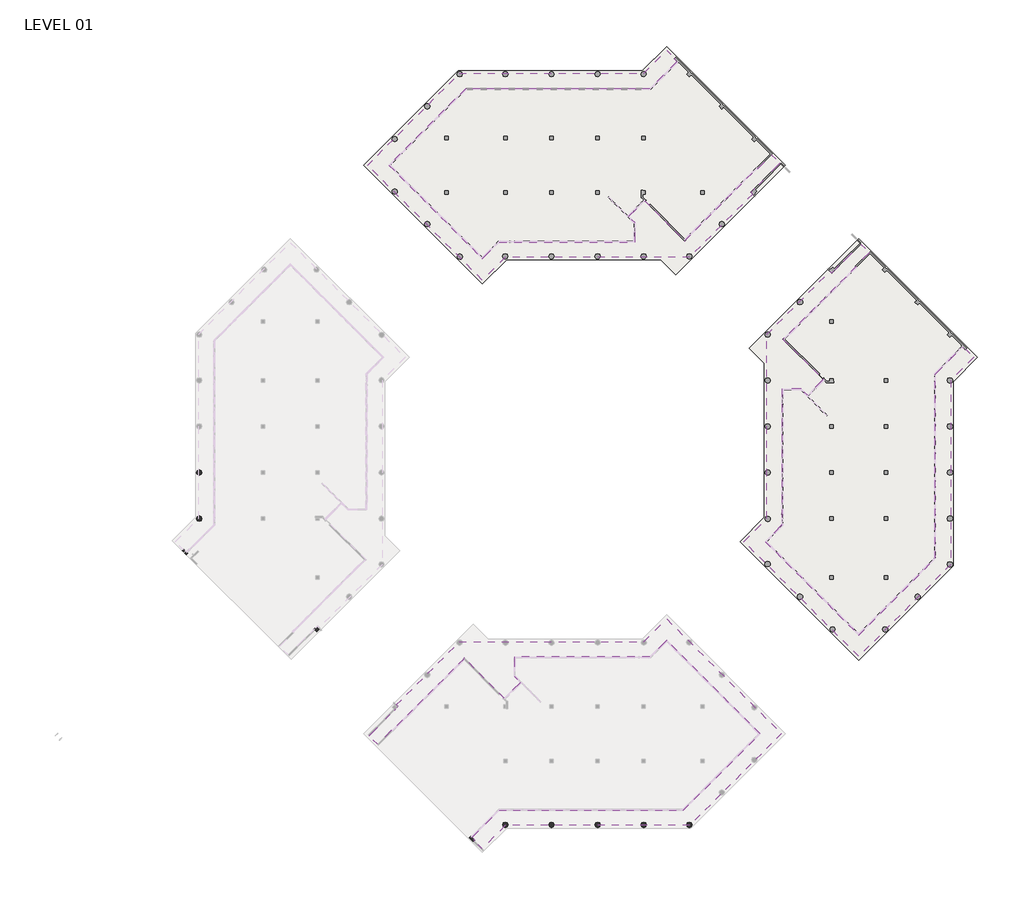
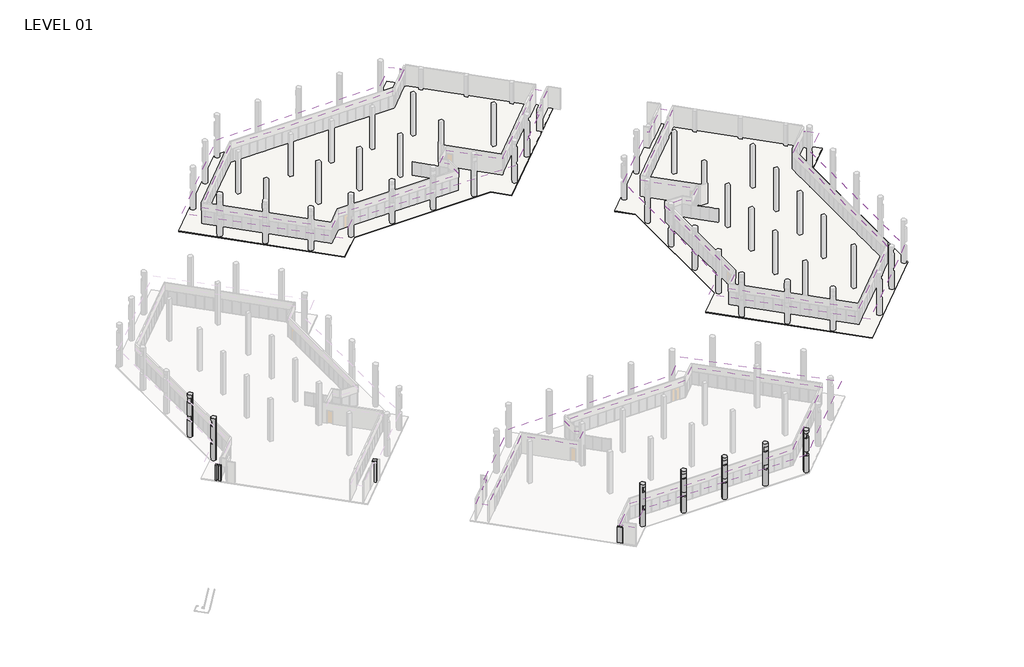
# One storey, part 16 of 24: 10 columns, 3 coverings, 2 slabs.
"""IFC4 building model written with IfcOpenShell, lengths in millimetres."""

from ifc_helpers import new_model, si_unit, frame, origin, origin_with_axes, place, context, project, spatial, polyline, circle_curve, outline, extrude, faceted_brep, element, save
from ifc_brep_helpers import plane_surface, cylinder_surface, advanced_brep

model = new_model("IFC4")

# Units and contexts
model_context = context("Model", 3, world=origin())
ifc_project = project(units=[si_unit("LENGTHUNIT", "METRE", prefix="MILLI")], contexts=[model_context])

# Site, building, storey
site = spatial("IfcSite", under=ifc_project)
building = spatial("IfcBuilding", under=site)
storey = spatial("IfcBuildingStorey", under=building, Name="LEVEL 01", Elevation=0.0)

# Columns
placement = place(None, origin())
element("IfcColumn", 1, ObjectType="Rectangular Column : 1'2\"x3'-0\"", at=placement, inside=storey, context=model_context, shape_type="SweptSolid", body=[
    extrude(outline(polyline([(12692.6625632, -6464.9955932), (13339.2410039, -7111.5740339), (13087.7938325, -7363.0212053), (12441.2153918, -6716.4427645), (12692.6625632, -6464.9955932)])), origin_with_axes(), (0.0, 0.0, 1.0), 3048.0),
])
element("IfcColumn", 2, ObjectType="Rectangular Column : 1'2\"x3'-0\"", at=placement, inside=storey, context=model_context, shape_type="Brep", body=[
    faceted_brep([(-35055.0387938, 40779.8114211, 0.0), (-34803.5916224, 41031.2585924, 0.0), (-34606.3464265, 40834.0133965, 0.0), (-34857.7935979, 40582.5662251, 0.0), (-35055.0387938, 40779.8114211, 3048.0), (-34803.5916224, 41031.2585924, 3048.0), (-34606.3464265, 40834.0133965, 3048.0), (-34857.7935979, 40582.5662251, 3048.0)], [[[0, 1, 2, 3]], [[1, 0, 4, 5]], [[3, 2, 6, 7]], [[1, 5, 6, 2]], [[4, 0, 3, 7]], [[5, 4, 7, 6]]]),
    faceted_brep([(-34157.0131817, 40384.6801517, 3048.0), (-34157.0131817, 40384.6801517, 0.0), (-34390.8202796, 40618.4872496, 0.0), (-34390.8202796, 40618.4872496, 3048.0), (-34362.0124677, 40589.6794378, 3048.0), (-34218.3283698, 40445.9953398, 3048.0), (-34408.4603531, 40133.2329803, 0.0), (-34408.4603531, 40133.2329803, 3048.0), (-34642.2674509, 40367.0400782, 3048.0), (-34642.2674509, 40367.0400782, 0.0)], [[[0, 1, 2, 3, 4, 5]], [[6, 7, 8, 9]], [[6, 1, 0, 7]], [[7, 0, 5, 4, 3, 8]], [[2, 9, 8, 3]], [[1, 6, 9, 2]]]),
])
element("IfcColumn", 3, ObjectType="Rectangular Column : 24\" x 24\"", at=placement, inside=storey, context=model_context, shape_type="SweptSolid", body=[
    extrude(outline(polyline([(-12428.6744716, 27763.8596375), (-12859.7267654, 27332.8073437), (-13290.7790592, 27763.8596375), (-12859.7267654, 28194.9119313), (-12428.6744716, 27763.8596375)])), origin_with_axes(), (0.0, 0.0, 1.0), 4140.2),
])
element("IfcColumn", 4, ObjectType="Round Column : 36\" Diameter", at=placement, inside=storey, context=model_context, shape_type="AdvancedBrep", body=[
    advanced_brep(
    [(49291.0659021, -4590.3671279, 0.0), (48376.6659021, -4590.3671279, 0.0), (48833.8659021, -4133.1671279, 0.0), (49291.0659021, -4590.3671279, 3225.8), (49157.1551224, -4913.6563482, 3225.8), (48833.8659021, -5047.5671279, 3225.8), (48636.8289755, -5002.9302013, 3225.8), (48402.8136083, -4742.7671279, 3225.8), (48402.8136083, -4742.7671279, 4140.2), (48636.8289755, -5002.9302013, 4140.2), (48833.8659021, -5047.5671279, 4140.2), (49157.1551224, -4913.6563482, 4140.2), (49291.0659021, -4590.3671279, 4140.2), (49291.0659021, -4590.3671279, 6731.0), (49157.1551224, -4913.6563482, 6731.0), (48833.8659021, -5047.5671279, 6731.0), (48636.8289755, -5002.9302013, 6731.0), (48402.8136083, -4742.7671279, 6731.0), (48402.8136083, -4742.7671279, 7721.6), (48636.8289755, -5002.9302013, 7721.6), (48833.8659021, -5047.5671279, 7721.6), (49157.1551224, -4913.6563482, 7721.6), (49291.0659021, -4590.3671279, 7721.6), (49291.0659021, -4590.3671279, 8280.4), (48376.6659021, -4590.3671279, 8280.4), (48833.8659021, -4133.1671279, 8280.4), (49246.4289755, -4393.3302013, 7721.6), (49246.4289755, -4393.3302013, 6731.0), (49246.4289755, -4393.3302013, 4140.2), (49246.4289755, -4393.3302013, 3225.8), (48896.992049, -4742.7671279, 4140.2), (48896.992049, -4742.7671279, 3225.8), (48896.992049, -4742.7671279, 7721.6), (48896.992049, -4742.7671279, 6731.0)],
    [
        (0, 1, circle_curve(frame((48833.8659021, -4590.3671279, 0.0), z_axis=(0.0, 0.0, -1.0), x_axis=(1.0, 0.0, 0.0)), 457.2)),
        (1, 2, circle_curve(frame((48833.8659021, -4590.3671279, 0.0), z_axis=(0.0, 0.0, -1.0), x_axis=(1.0, 0.0, 0.0)), 457.2)),
        (2, 0, circle_curve(frame((48833.8659021, -4590.3671279, 0.0), z_axis=(0.0, 0.0, -1.0), x_axis=(1.0, 0.0, 0.0)), 457.2)),
        (0, 3),
        (3, 4, circle_curve(frame((48833.8659021, -4590.3671279, 3225.8), z_axis=(0.0, 0.0, -1.0), x_axis=(1.0, 0.0, 0.0)), 457.2)),
        (4, 5, circle_curve(frame((48833.8659021, -4590.3671279, 3225.8), z_axis=(0.0, 0.0, -1.0), x_axis=(1.0, 0.0, 0.0)), 457.2)),
        (5, 6, circle_curve(frame((48833.8659021, -4590.3671279, 3225.8), z_axis=(0.0, 0.0, -1.0), x_axis=(1.0, 0.0, 0.0)), 457.2)),
        (6, 7, circle_curve(frame((48833.8659021, -4590.3671279, 3225.8), z_axis=(0.0, 0.0, -1.0), x_axis=(1.0, 0.0, 0.0)), 457.2)),
        (7, 8),
        (8, 9, circle_curve(frame((48833.8659021, -4590.3671279, 4140.2), z_axis=(0.0, 0.0, 1.0), x_axis=(1.0, 0.0, 0.0)), 457.2)),
        (9, 10, circle_curve(frame((48833.8659021, -4590.3671279, 4140.2), z_axis=(0.0, 0.0, 1.0), x_axis=(1.0, 0.0, 0.0)), 457.2)),
        (10, 11, circle_curve(frame((48833.8659021, -4590.3671279, 4140.2), z_axis=(0.0, 0.0, 1.0), x_axis=(1.0, 0.0, 0.0)), 457.2)),
        (11, 12, circle_curve(frame((48833.8659021, -4590.3671279, 4140.2), z_axis=(0.0, 0.0, 1.0), x_axis=(1.0, 0.0, 0.0)), 457.2)),
        (12, 13),
        (13, 14, circle_curve(frame((48833.8659021, -4590.3671279, 6731.0), z_axis=(0.0, 0.0, -1.0), x_axis=(1.0, 0.0, 0.0)), 457.2)),
        (14, 15, circle_curve(frame((48833.8659021, -4590.3671279, 6731.0), z_axis=(0.0, 0.0, -1.0), x_axis=(1.0, 0.0, 0.0)), 457.2)),
        (15, 16, circle_curve(frame((48833.8659021, -4590.3671279, 6731.0), z_axis=(0.0, 0.0, -1.0), x_axis=(1.0, 0.0, 0.0)), 457.2)),
        (16, 17, circle_curve(frame((48833.8659021, -4590.3671279, 6731.0), z_axis=(0.0, 0.0, -1.0), x_axis=(1.0, 0.0, 0.0)), 457.2)),
        (17, 18),
        (18, 19, circle_curve(frame((48833.8659021, -4590.3671279, 7721.6), z_axis=(0.0, 0.0, 1.0), x_axis=(1.0, 0.0, 0.0)), 457.2)),
        (19, 20, circle_curve(frame((48833.8659021, -4590.3671279, 7721.6), z_axis=(0.0, 0.0, 1.0), x_axis=(1.0, 0.0, 0.0)), 457.2)),
        (20, 21, circle_curve(frame((48833.8659021, -4590.3671279, 7721.6), z_axis=(0.0, 0.0, 1.0), x_axis=(1.0, 0.0, 0.0)), 457.2)),
        (21, 22, circle_curve(frame((48833.8659021, -4590.3671279, 7721.6), z_axis=(0.0, 0.0, 1.0), x_axis=(1.0, 0.0, 0.0)), 457.2)),
        (22, 23),
        (23, 24, circle_curve(frame((48833.8659021, -4590.3671279, 8280.4), z_axis=(0.0, 0.0, -1.0), x_axis=(1.0, 0.0, 0.0)), 457.2)),
        (24, 1),
        (24, 25, circle_curve(frame((48833.8659021, -4590.3671279, 8280.4), z_axis=(0.0, 0.0, -1.0), x_axis=(1.0, 0.0, 0.0)), 457.2)),
        (25, 2),
        (25, 23, circle_curve(frame((48833.8659021, -4590.3671279, 8280.4), z_axis=(0.0, 0.0, -1.0), x_axis=(1.0, 0.0, 0.0)), 457.2)),
        (22, 26, circle_curve(frame((48833.8659021, -4590.3671279, 7721.6), z_axis=(0.0, 0.0, 1.0), x_axis=(1.0, 0.0, 0.0)), 457.2)),
        (26, 27),
        (27, 13, circle_curve(frame((48833.8659021, -4590.3671279, 6731.0), z_axis=(0.0, 0.0, -1.0), x_axis=(1.0, 0.0, 0.0)), 457.2)),
        (12, 28, circle_curve(frame((48833.8659021, -4590.3671279, 4140.2), z_axis=(0.0, 0.0, 1.0), x_axis=(1.0, 0.0, 0.0)), 457.2)),
        (28, 29),
        (29, 3, circle_curve(frame((48833.8659021, -4590.3671279, 3225.8), z_axis=(0.0, 0.0, -1.0), x_axis=(1.0, 0.0, 0.0)), 457.2)),
        (28, 30),
        (30, 31),
        (31, 29),
        (31, 6),
        (9, 30),
        (30, 8),
        (7, 31),
        (26, 32),
        (32, 33),
        (33, 27),
        (33, 16),
        (19, 32),
        (32, 18),
        (17, 33),
    ],
    [
        plane_surface(frame((49291.0659021, -4590.3671279, 0.0), z_axis=(0.0, 0.0, -1.0), x_axis=(0.0, -1.0, 0.0))),
        cylinder_surface(frame((48833.8659021, -4590.3671279, 0.0), z_axis=(0.0, 0.0, 1.0), x_axis=(1.0, 0.0, 0.0)), 457.2),
        plane_surface(frame((49291.0659021, -4590.3671279, 8280.4), z_axis=(0.0, 0.0, 1.0), x_axis=(0.0, 1.0, 0.0))),
        plane_surface(frame((64421.1852448, 10781.426068, 3225.8), z_axis=(0.707106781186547, -0.7071067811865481, 0.0), x_axis=(-0.7071067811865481, -0.707106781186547, 0.0))),
        plane_surface(frame((64241.5801224, 10601.8209456, 3225.8), z_axis=(0.0, 0.0, 1.0000000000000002), x_axis=(0.7071067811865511, -0.707106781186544, 0.0))),
        plane_surface(frame((48852.3551224, -4787.4040544, 4140.2), z_axis=(0.0, 0.0, -1.0000000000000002), x_axis=(0.7071067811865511, -0.707106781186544, 0.0))),
        plane_surface(frame((49023.2443428, -4742.7671279, 3225.8), z_axis=(0.0, -1.0, 0.0), x_axis=(-1.0, 0.0, 0.0))),
        plane_surface(frame((48960.1181959, -4742.7671279, 3225.8), z_axis=(0.0, 0.0, 1.0), x_axis=(0.0, -1.0, 0.0))),
        plane_surface(frame((18480.1181959, -4742.7671279, 4140.2), z_axis=(0.0, 0.0, -1.0), x_axis=(0.0, -1.0, 0.0))),
        plane_surface(frame((64421.1852448, 10781.426068, 6731.0), z_axis=(0.7071067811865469, -0.7071067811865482, 0.0), x_axis=(-0.7071067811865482, -0.7071067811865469, 0.0))),
        plane_surface(frame((64241.5801224, 10601.8209456, 6731.0), z_axis=(0.0, 0.0, 1.0000000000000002), x_axis=(0.7071067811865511, -0.707106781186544, 0.0))),
        plane_surface(frame((48852.3551224, -4787.4040544, 7721.6), z_axis=(0.0, 0.0, -1.0000000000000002), x_axis=(0.7071067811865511, -0.707106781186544, 0.0))),
        plane_surface(frame((49023.2443428, -4742.7671279, 6731.0), z_axis=(0.0, -1.0, 0.0), x_axis=(-1.0, 0.0, 0.0))),
        plane_surface(frame((48960.1181959, -4742.7671279, 6731.0), z_axis=(0.0, 0.0, 1.0), x_axis=(0.0, -1.0, 0.0))),
        plane_surface(frame((18480.1181959, -4742.7671279, 7721.6), z_axis=(0.0, 0.0, -1.0), x_axis=(0.0, -1.0, 0.0))),
    ],
    [
        (0, [[1, 2, 3]]),
        (1, [[-1, 4, 5, 6, 7, 8, 9, 10, 11, 12, 13, 14, 15, 16, 17, 18, 19, 20, 21, 22, 23, 24, 25, 26]]),
        (1, [[-2, -26, 27, 28]]),
        (1, [[-3, -28, 29, -24, 30, 31, 32, -14, 33, 34, 35, -4]]),
        (2, [[-25, -29, -27]]),
        (3, [[-34, 36, 37, 38]]),
        (4, [[-5, -35, -38, 39, -7, -6]]),
        (5, [[-13, -12, -11, 40, -36, -33]]),
        (6, [[41, -9, 42, -37]]),
        (7, [[-42, -8, -39]]),
        (8, [[-41, -40, -10]]),
        (9, [[-31, 43, 44, 45]]),
        (10, [[-15, -32, -45, 46, -17, -16]]),
        (11, [[-23, -22, -21, 47, -43, -30]]),
        (12, [[48, -19, 49, -44]]),
        (13, [[-49, -18, -46]]),
        (14, [[-48, -47, -20]]),
    ],
),
])
element("IfcColumn", 5, ObjectType="Round Column : 36\" Diameter", at=placement, inside=storey, context=model_context, shape_type="AdvancedBrep", body=[
    advanced_brep(
    [(41713.15, -4590.3671279, 0.0), (40798.75, -4590.3671279, 0.0), (41255.95, -4133.1671279, 0.0), (41713.15, -4590.3671279, 8280.4), (40798.75, -4590.3671279, 8280.4), (41687.0022938, -4742.7671279, 4140.2), (41687.0022938, -4742.7671279, 3225.8), (41255.95, -5047.5671279, 3225.8), (40824.8977062, -4742.7671279, 3225.8), (40824.8977062, -4742.7671279, 4140.2), (41255.95, -5047.5671279, 4140.2), (41687.0022938, -4742.7671279, 7721.6), (41687.0022938, -4742.7671279, 6731.0), (41255.95, -5047.5671279, 6731.0), (40824.8977062, -4742.7671279, 6731.0), (40824.8977062, -4742.7671279, 7721.6), (41255.95, -5047.5671279, 7721.6), (41255.95, -4133.1671279, 8280.4)],
    [
        (0, 1, circle_curve(frame((41255.95, -4590.3671279, 0.0), z_axis=(0.0, 0.0, -1.0), x_axis=(1.0, 0.0, 0.0)), 457.2)),
        (1, 2, circle_curve(frame((41255.95, -4590.3671279, 0.0), z_axis=(0.0, 0.0, -1.0), x_axis=(1.0, 0.0, 0.0)), 457.2)),
        (2, 0, circle_curve(frame((41255.95, -4590.3671279, 0.0), z_axis=(0.0, 0.0, -1.0), x_axis=(1.0, 0.0, 0.0)), 457.2)),
        (0, 3),
        (3, 4, circle_curve(frame((41255.95, -4590.3671279, 8280.4), z_axis=(0.0, 0.0, -1.0), x_axis=(1.0, 0.0, 0.0)), 457.2)),
        (4, 1),
        (5, 6),
        (6, 7, circle_curve(frame((41255.95, -4590.3671279, 3225.8), z_axis=(0.0, 0.0, -1.0), x_axis=(1.0, 0.0, 0.0)), 457.2)),
        (7, 8, circle_curve(frame((41255.95, -4590.3671279, 3225.8), z_axis=(0.0, 0.0, -1.0), x_axis=(1.0, 0.0, 0.0)), 457.2)),
        (8, 9),
        (9, 10, circle_curve(frame((41255.95, -4590.3671279, 4140.2), z_axis=(0.0, 0.0, 1.0), x_axis=(1.0, 0.0, 0.0)), 457.2)),
        (10, 5, circle_curve(frame((41255.95, -4590.3671279, 4140.2), z_axis=(0.0, 0.0, 1.0), x_axis=(1.0, 0.0, 0.0)), 457.2)),
        (11, 12),
        (12, 13, circle_curve(frame((41255.95, -4590.3671279, 6731.0), z_axis=(0.0, 0.0, -1.0), x_axis=(1.0, 0.0, 0.0)), 457.2)),
        (13, 14, circle_curve(frame((41255.95, -4590.3671279, 6731.0), z_axis=(0.0, 0.0, -1.0), x_axis=(1.0, 0.0, 0.0)), 457.2)),
        (14, 15),
        (15, 16, circle_curve(frame((41255.95, -4590.3671279, 7721.6), z_axis=(0.0, 0.0, 1.0), x_axis=(1.0, 0.0, 0.0)), 457.2)),
        (16, 11, circle_curve(frame((41255.95, -4590.3671279, 7721.6), z_axis=(0.0, 0.0, 1.0), x_axis=(1.0, 0.0, 0.0)), 457.2)),
        (4, 17, circle_curve(frame((41255.95, -4590.3671279, 8280.4), z_axis=(0.0, 0.0, -1.0), x_axis=(1.0, 0.0, 0.0)), 457.2)),
        (17, 2),
        (17, 3, circle_curve(frame((41255.95, -4590.3671279, 8280.4), z_axis=(0.0, 0.0, -1.0), x_axis=(1.0, 0.0, 0.0)), 457.2)),
        (5, 9),
        (8, 6),
        (11, 15),
        (14, 12),
    ],
    [
        plane_surface(frame((41713.15, -4590.3671279, 0.0), z_axis=(0.0, 0.0, -1.0), x_axis=(0.0, -1.0, 0.0))),
        cylinder_surface(frame((41255.95, -4590.3671279, 0.0), z_axis=(0.0, 0.0, 1.0), x_axis=(1.0, 0.0, 0.0)), 457.2),
        plane_surface(frame((41713.15, -4590.3671279, 8280.4), z_axis=(0.0, 0.0, 1.0), x_axis=(0.0, 1.0, 0.0))),
        plane_surface(frame((49023.2443428, -4742.7671279, 3225.8), z_axis=(0.0, -1.0, 0.0), x_axis=(-1.0, 0.0, 0.0))),
        plane_surface(frame((48960.1181959, -4742.7671279, 3225.8), z_axis=(0.0, 0.0, 1.0), x_axis=(0.0, -1.0, 0.0))),
        plane_surface(frame((18480.1181959, -4742.7671279, 4140.2), z_axis=(0.0, 0.0, -1.0), x_axis=(0.0, -1.0, 0.0))),
        plane_surface(frame((49023.2443428, -4742.7671279, 6731.0), z_axis=(0.0, -1.0, 0.0), x_axis=(-1.0, 0.0, 0.0))),
        plane_surface(frame((48960.1181959, -4742.7671279, 6731.0), z_axis=(0.0, 0.0, 1.0), x_axis=(0.0, -1.0, 0.0))),
        plane_surface(frame((18480.1181959, -4742.7671279, 7721.6), z_axis=(0.0, 0.0, -1.0), x_axis=(0.0, -1.0, 0.0))),
    ],
    [
        (0, [[1, 2, 3]]),
        (1, [[-1, 4, 5, 6], [7, 8, 9, 10, 11, 12], [13, 14, 15, 16, 17, 18]]),
        (1, [[-2, -6, 19, 20]]),
        (1, [[-3, -20, 21, -4]]),
        (2, [[-5, -21, -19]]),
        (3, [[22, -10, 23, -7]]),
        (4, [[-23, -9, -8]]),
        (5, [[-22, -12, -11]]),
        (6, [[24, -16, 25, -13]]),
        (7, [[-25, -15, -14]]),
        (8, [[-24, -18, -17]]),
    ],
),
])
element("IfcColumn", 6, ObjectType="Round Column : 36\" Diameter", at=placement, inside=storey, context=model_context, shape_type="AdvancedBrep", body=[
    advanced_brep(
    [(34093.15, -4590.3671279, 0.0), (33178.75, -4590.3671279, 0.0), (33635.95, -4133.1671279, 0.0), (34093.15, -4590.3671279, 8280.4), (33178.75, -4590.3671279, 8280.4), (34067.0022938, -4742.7671279, 4140.2), (34067.0022938, -4742.7671279, 3225.8), (33635.95, -5047.5671279, 3225.8), (33204.8977062, -4742.7671279, 3225.8), (33204.8977062, -4742.7671279, 4140.2), (33635.95, -5047.5671279, 4140.2), (34067.0022938, -4742.7671279, 7721.6), (34067.0022938, -4742.7671279, 6731.0), (33635.95, -5047.5671279, 6731.0), (33204.8977062, -4742.7671279, 6731.0), (33204.8977062, -4742.7671279, 7721.6), (33635.95, -5047.5671279, 7721.6), (33635.95, -4133.1671279, 8280.4)],
    [
        (0, 1, circle_curve(frame((33635.95, -4590.3671279, 0.0), z_axis=(0.0, 0.0, -1.0), x_axis=(1.0, 0.0, 0.0)), 457.2)),
        (1, 2, circle_curve(frame((33635.95, -4590.3671279, 0.0), z_axis=(0.0, 0.0, -1.0), x_axis=(1.0, 0.0, 0.0)), 457.2)),
        (2, 0, circle_curve(frame((33635.95, -4590.3671279, 0.0), z_axis=(0.0, 0.0, -1.0), x_axis=(1.0, 0.0, 0.0)), 457.2)),
        (0, 3),
        (3, 4, circle_curve(frame((33635.95, -4590.3671279, 8280.4), z_axis=(0.0, 0.0, -1.0), x_axis=(1.0, 0.0, 0.0)), 457.2)),
        (4, 1),
        (5, 6),
        (6, 7, circle_curve(frame((33635.95, -4590.3671279, 3225.8), z_axis=(0.0, 0.0, -1.0), x_axis=(1.0, 0.0, 0.0)), 457.2)),
        (7, 8, circle_curve(frame((33635.95, -4590.3671279, 3225.8), z_axis=(0.0, 0.0, -1.0), x_axis=(1.0, 0.0, 0.0)), 457.2)),
        (8, 9),
        (9, 10, circle_curve(frame((33635.95, -4590.3671279, 4140.2), z_axis=(0.0, 0.0, 1.0), x_axis=(1.0, 0.0, 0.0)), 457.2)),
        (10, 5, circle_curve(frame((33635.95, -4590.3671279, 4140.2), z_axis=(0.0, 0.0, 1.0), x_axis=(1.0, 0.0, 0.0)), 457.2)),
        (11, 12),
        (12, 13, circle_curve(frame((33635.95, -4590.3671279, 6731.0), z_axis=(0.0, 0.0, -1.0), x_axis=(1.0, 0.0, 0.0)), 457.2)),
        (13, 14, circle_curve(frame((33635.95, -4590.3671279, 6731.0), z_axis=(0.0, 0.0, -1.0), x_axis=(1.0, 0.0, 0.0)), 457.2)),
        (14, 15),
        (15, 16, circle_curve(frame((33635.95, -4590.3671279, 7721.6), z_axis=(0.0, 0.0, 1.0), x_axis=(1.0, 0.0, 0.0)), 457.2)),
        (16, 11, circle_curve(frame((33635.95, -4590.3671279, 7721.6), z_axis=(0.0, 0.0, 1.0), x_axis=(1.0, 0.0, 0.0)), 457.2)),
        (4, 17, circle_curve(frame((33635.95, -4590.3671279, 8280.4), z_axis=(0.0, 0.0, -1.0), x_axis=(1.0, 0.0, 0.0)), 457.2)),
        (17, 2),
        (17, 3, circle_curve(frame((33635.95, -4590.3671279, 8280.4), z_axis=(0.0, 0.0, -1.0), x_axis=(1.0, 0.0, 0.0)), 457.2)),
        (5, 9),
        (8, 6),
        (11, 15),
        (14, 12),
    ],
    [
        plane_surface(frame((34093.15, -4590.3671279, 0.0), z_axis=(0.0, 0.0, -1.0), x_axis=(0.0, -1.0, 0.0))),
        cylinder_surface(frame((33635.95, -4590.3671279, 0.0), z_axis=(0.0, 0.0, 1.0), x_axis=(1.0, 0.0, 0.0)), 457.2),
        plane_surface(frame((34093.15, -4590.3671279, 8280.4), z_axis=(0.0, 0.0, 1.0), x_axis=(0.0, 1.0, 0.0))),
        plane_surface(frame((49023.2443428, -4742.7671279, 3225.8), z_axis=(0.0, -1.0, 0.0), x_axis=(-1.0, 0.0, 0.0))),
        plane_surface(frame((48960.1181959, -4742.7671279, 3225.8), z_axis=(0.0, 0.0, 1.0), x_axis=(0.0, -1.0, 0.0))),
        plane_surface(frame((18480.1181959, -4742.7671279, 4140.2), z_axis=(0.0, 0.0, -1.0), x_axis=(0.0, -1.0, 0.0))),
        plane_surface(frame((49023.2443428, -4742.7671279, 6731.0), z_axis=(0.0, -1.0, 0.0), x_axis=(-1.0, 0.0, 0.0))),
        plane_surface(frame((48960.1181959, -4742.7671279, 6731.0), z_axis=(0.0, 0.0, 1.0), x_axis=(0.0, -1.0, 0.0))),
        plane_surface(frame((18480.1181959, -4742.7671279, 7721.6), z_axis=(0.0, 0.0, -1.0), x_axis=(0.0, -1.0, 0.0))),
    ],
    [
        (0, [[1, 2, 3]]),
        (1, [[-1, 4, 5, 6], [7, 8, 9, 10, 11, 12], [13, 14, 15, 16, 17, 18]]),
        (1, [[-2, -6, 19, 20]]),
        (1, [[-3, -20, 21, -4]]),
        (2, [[-5, -21, -19]]),
        (3, [[22, -10, 23, -7]]),
        (4, [[-23, -9, -8]]),
        (5, [[-22, -12, -11]]),
        (6, [[24, -16, 25, -13]]),
        (7, [[-25, -15, -14]]),
        (8, [[-24, -18, -17]]),
    ],
),
])
element("IfcColumn", 7, ObjectType="Round Column : 36\" Diameter", at=placement, inside=storey, context=model_context, shape_type="AdvancedBrep", body=[
    advanced_brep(
    [(18853.15, -4590.3671279, 0.0), (17938.75, -4590.3671279, 0.0), (18395.95, -4133.1671279, 0.0), (18853.15, -4590.3671279, 8280.4), (17938.75, -4590.3671279, 8280.4), (18827.0022938, -4742.7671279, 4140.2), (18827.0022938, -4742.7671279, 3225.8), (18395.95, -5047.5671279, 3225.8), (18171.2302052, -4988.5289716, 3225.8), (18171.2302052, -4988.5289716, 4140.2), (18395.95, -5047.5671279, 4140.2), (18827.0022938, -4742.7671279, 7721.6), (18827.0022938, -4742.7671279, 6731.0), (18395.95, -5047.5671279, 6731.0), (18171.2302052, -4988.5289716, 6731.0), (18171.2302052, -4988.5289716, 7721.6), (18395.95, -5047.5671279, 7721.6), (18395.95, -4133.1671279, 8280.4), (18416.992049, -4742.7671279, 4140.2), (18416.992049, -4742.7671279, 3225.8), (18416.992049, -4742.7671279, 7721.6), (18416.992049, -4742.7671279, 6731.0)],
    [
        (0, 1, circle_curve(frame((18395.95, -4590.3671279, 0.0), z_axis=(0.0, 0.0, -1.0), x_axis=(1.0, 0.0, 0.0)), 457.2)),
        (1, 2, circle_curve(frame((18395.95, -4590.3671279, 0.0), z_axis=(0.0, 0.0, -1.0), x_axis=(1.0, 0.0, 0.0)), 457.2)),
        (2, 0, circle_curve(frame((18395.95, -4590.3671279, 0.0), z_axis=(0.0, 0.0, -1.0), x_axis=(1.0, 0.0, 0.0)), 457.2)),
        (0, 3),
        (3, 4, circle_curve(frame((18395.95, -4590.3671279, 8280.4), z_axis=(0.0, 0.0, -1.0), x_axis=(1.0, 0.0, 0.0)), 457.2)),
        (4, 1),
        (5, 6),
        (6, 7, circle_curve(frame((18395.95, -4590.3671279, 3225.8), z_axis=(0.0, 0.0, -1.0), x_axis=(1.0, 0.0, 0.0)), 457.2)),
        (7, 8, circle_curve(frame((18395.95, -4590.3671279, 3225.8), z_axis=(0.0, 0.0, -1.0), x_axis=(1.0, 0.0, 0.0)), 457.2)),
        (8, 9),
        (9, 10, circle_curve(frame((18395.95, -4590.3671279, 4140.2), z_axis=(0.0, 0.0, 1.0), x_axis=(1.0, 0.0, 0.0)), 457.2)),
        (10, 5, circle_curve(frame((18395.95, -4590.3671279, 4140.2), z_axis=(0.0, 0.0, 1.0), x_axis=(1.0, 0.0, 0.0)), 457.2)),
        (11, 12),
        (12, 13, circle_curve(frame((18395.95, -4590.3671279, 6731.0), z_axis=(0.0, 0.0, -1.0), x_axis=(1.0, 0.0, 0.0)), 457.2)),
        (13, 14, circle_curve(frame((18395.95, -4590.3671279, 6731.0), z_axis=(0.0, 0.0, -1.0), x_axis=(1.0, 0.0, 0.0)), 457.2)),
        (14, 15),
        (15, 16, circle_curve(frame((18395.95, -4590.3671279, 7721.6), z_axis=(0.0, 0.0, 1.0), x_axis=(1.0, 0.0, 0.0)), 457.2)),
        (16, 11, circle_curve(frame((18395.95, -4590.3671279, 7721.6), z_axis=(0.0, 0.0, 1.0), x_axis=(1.0, 0.0, 0.0)), 457.2)),
        (4, 17, circle_curve(frame((18395.95, -4590.3671279, 8280.4), z_axis=(0.0, 0.0, -1.0), x_axis=(1.0, 0.0, 0.0)), 457.2)),
        (17, 2),
        (17, 3, circle_curve(frame((18395.95, -4590.3671279, 8280.4), z_axis=(0.0, 0.0, -1.0), x_axis=(1.0, 0.0, 0.0)), 457.2)),
        (5, 18),
        (18, 19),
        (19, 6),
        (19, 8),
        (9, 18),
        (20, 21),
        (21, 12),
        (11, 20),
        (21, 14),
        (15, 20),
    ],
    [
        plane_surface(frame((18853.15, -4590.3671279, 0.0), z_axis=(0.0, 0.0, -1.0), x_axis=(0.0, -1.0, 0.0))),
        cylinder_surface(frame((18395.95, -4590.3671279, 0.0), z_axis=(0.0, 0.0, 1.0), x_axis=(1.0, 0.0, 0.0)), 457.2),
        plane_surface(frame((18853.15, -4590.3671279, 8280.4), z_axis=(0.0, 0.0, 1.0), x_axis=(0.0, 1.0, 0.0))),
        plane_surface(frame((49023.2443428, -4742.7671279, 3225.8), z_axis=(0.0, -1.0, 0.0), x_axis=(-1.0, 0.0, 0.0))),
        plane_surface(frame((48960.1181959, -4742.7671279, 3225.8), z_axis=(0.0, 0.0, 1.0), x_axis=(0.0, -1.0, 0.0))),
        plane_surface(frame((18480.1181959, -4742.7671279, 4140.2), z_axis=(0.0, 0.0, -1.0), x_axis=(0.0, -1.0, 0.0))),
        plane_surface(frame((18327.7181959, -4832.040981, 3225.8), z_axis=(0.7071067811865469, -0.7071067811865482, 0.0), x_axis=(-0.7071067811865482, -0.7071067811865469, 0.0))),
        plane_surface(frame((49023.2443428, -4742.7671279, 6731.0), z_axis=(0.0, -1.0, 0.0), x_axis=(-1.0, 0.0, 0.0))),
        plane_surface(frame((48960.1181959, -4742.7671279, 6731.0), z_axis=(0.0, 0.0, 1.0), x_axis=(0.0, -1.0, 0.0))),
        plane_surface(frame((18480.1181959, -4742.7671279, 7721.6), z_axis=(0.0, 0.0, -1.0), x_axis=(0.0, -1.0, 0.0))),
        plane_surface(frame((18327.7181959, -4832.040981, 6731.0), z_axis=(0.7071067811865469, -0.7071067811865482, 0.0), x_axis=(-0.7071067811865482, -0.7071067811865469, 0.0))),
    ],
    [
        (0, [[1, 2, 3]]),
        (1, [[-1, 4, 5, 6], [7, 8, 9, 10, 11, 12], [13, 14, 15, 16, 17, 18]]),
        (1, [[-2, -6, 19, 20]]),
        (1, [[-3, -20, 21, -4]]),
        (2, [[-5, -21, -19]]),
        (3, [[22, 23, 24, -7]]),
        (4, [[-24, 25, -9, -8]]),
        (5, [[-22, -12, -11, 26]]),
        (6, [[-23, -26, -10, -25]]),
        (7, [[27, 28, -13, 29]]),
        (8, [[-28, 30, -15, -14]]),
        (9, [[-29, -18, -17, 31]]),
        (10, [[-27, -31, -16, -30]]),
    ],
),
])
element("IfcColumn", 8, ObjectType="Round Column : 36\" Diameter", at=placement, inside=storey, context=model_context, shape_type="AdvancedBrep", body=[
    advanced_brep(
    [(26473.15, -4590.3671279, 0.0), (25558.75, -4590.3671279, 0.0), (26015.95, -4133.1671279, 0.0), (26473.15, -4590.3671279, 8280.4), (25558.75, -4590.3671279, 8280.4), (26447.0022938, -4742.7671279, 4140.2), (26447.0022938, -4742.7671279, 3225.8), (26015.95, -5047.5671279, 3225.8), (25584.8977062, -4742.7671279, 3225.8), (25584.8977062, -4742.7671279, 4140.2), (26015.95, -5047.5671279, 4140.2), (26447.0022938, -4742.7671279, 7721.6), (26447.0022938, -4742.7671279, 6731.0), (26015.95, -5047.5671279, 6731.0), (25584.8977062, -4742.7671279, 6731.0), (25584.8977062, -4742.7671279, 7721.6), (26015.95, -5047.5671279, 7721.6), (26015.95, -4133.1671279, 8280.4)],
    [
        (0, 1, circle_curve(frame((26015.95, -4590.3671279, 0.0), z_axis=(0.0, 0.0, -1.0), x_axis=(1.0, 0.0, 0.0)), 457.2)),
        (1, 2, circle_curve(frame((26015.95, -4590.3671279, 0.0), z_axis=(0.0, 0.0, -1.0), x_axis=(1.0, 0.0, 0.0)), 457.2)),
        (2, 0, circle_curve(frame((26015.95, -4590.3671279, 0.0), z_axis=(0.0, 0.0, -1.0), x_axis=(1.0, 0.0, 0.0)), 457.2)),
        (0, 3),
        (3, 4, circle_curve(frame((26015.95, -4590.3671279, 8280.4), z_axis=(0.0, 0.0, -1.0), x_axis=(1.0, 0.0, 0.0)), 457.2)),
        (4, 1),
        (5, 6),
        (6, 7, circle_curve(frame((26015.95, -4590.3671279, 3225.8), z_axis=(0.0, 0.0, -1.0), x_axis=(1.0, 0.0, 0.0)), 457.2)),
        (7, 8, circle_curve(frame((26015.95, -4590.3671279, 3225.8), z_axis=(0.0, 0.0, -1.0), x_axis=(1.0, 0.0, 0.0)), 457.2)),
        (8, 9),
        (9, 10, circle_curve(frame((26015.95, -4590.3671279, 4140.2), z_axis=(0.0, 0.0, 1.0), x_axis=(1.0, 0.0, 0.0)), 457.2)),
        (10, 5, circle_curve(frame((26015.95, -4590.3671279, 4140.2), z_axis=(0.0, 0.0, 1.0), x_axis=(1.0, 0.0, 0.0)), 457.2)),
        (11, 12),
        (12, 13, circle_curve(frame((26015.95, -4590.3671279, 6731.0), z_axis=(0.0, 0.0, -1.0), x_axis=(1.0, 0.0, 0.0)), 457.2)),
        (13, 14, circle_curve(frame((26015.95, -4590.3671279, 6731.0), z_axis=(0.0, 0.0, -1.0), x_axis=(1.0, 0.0, 0.0)), 457.2)),
        (14, 15),
        (15, 16, circle_curve(frame((26015.95, -4590.3671279, 7721.6), z_axis=(0.0, 0.0, 1.0), x_axis=(1.0, 0.0, 0.0)), 457.2)),
        (16, 11, circle_curve(frame((26015.95, -4590.3671279, 7721.6), z_axis=(0.0, 0.0, 1.0), x_axis=(1.0, 0.0, 0.0)), 457.2)),
        (4, 17, circle_curve(frame((26015.95, -4590.3671279, 8280.4), z_axis=(0.0, 0.0, -1.0), x_axis=(1.0, 0.0, 0.0)), 457.2)),
        (17, 2),
        (17, 3, circle_curve(frame((26015.95, -4590.3671279, 8280.4), z_axis=(0.0, 0.0, -1.0), x_axis=(1.0, 0.0, 0.0)), 457.2)),
        (5, 9),
        (8, 6),
        (11, 15),
        (14, 12),
    ],
    [
        plane_surface(frame((26473.15, -4590.3671279, 0.0), z_axis=(0.0, 0.0, -1.0), x_axis=(0.0, -1.0, 0.0))),
        cylinder_surface(frame((26015.95, -4590.3671279, 0.0), z_axis=(0.0, 0.0, 1.0), x_axis=(1.0, 0.0, 0.0)), 457.2),
        plane_surface(frame((26473.15, -4590.3671279, 8280.4), z_axis=(0.0, 0.0, 1.0), x_axis=(0.0, 1.0, 0.0))),
        plane_surface(frame((49023.2443428, -4742.7671279, 3225.8), z_axis=(0.0, -1.0, 0.0), x_axis=(-1.0, 0.0, 0.0))),
        plane_surface(frame((48960.1181959, -4742.7671279, 3225.8), z_axis=(0.0, 0.0, 1.0), x_axis=(0.0, -1.0, 0.0))),
        plane_surface(frame((18480.1181959, -4742.7671279, 4140.2), z_axis=(0.0, 0.0, -1.0), x_axis=(0.0, -1.0, 0.0))),
        plane_surface(frame((49023.2443428, -4742.7671279, 6731.0), z_axis=(0.0, -1.0, 0.0), x_axis=(-1.0, 0.0, 0.0))),
        plane_surface(frame((48960.1181959, -4742.7671279, 6731.0), z_axis=(0.0, 0.0, 1.0), x_axis=(0.0, -1.0, 0.0))),
        plane_surface(frame((18480.1181959, -4742.7671279, 7721.6), z_axis=(0.0, 0.0, -1.0), x_axis=(0.0, -1.0, 0.0))),
    ],
    [
        (0, [[1, 2, 3]]),
        (1, [[-1, 4, 5, 6], [7, 8, 9, 10, 11, 12], [13, 14, 15, 16, 17, 18]]),
        (1, [[-2, -6, 19, 20]]),
        (1, [[-3, -20, 21, -4]]),
        (2, [[-5, -21, -19]]),
        (3, [[22, -10, 23, -7]]),
        (4, [[-23, -9, -8]]),
        (5, [[-22, -12, -11]]),
        (6, [[24, -16, 25, -13]]),
        (7, [[-25, -15, -14]]),
        (8, [[-24, -18, -17]]),
    ],
),
])
element("IfcColumn", 9, ObjectType="Round Column : 36\" Diameter", at=placement, inside=storey, context=model_context, shape_type="AdvancedBrep", body=[
    advanced_brep(
    [(-32282.3847164, 45630.7675885, 0.0), (-32282.3847164, 46545.1675885, 0.0), (-31825.1847164, 46087.9675885, 0.0), (-32282.3847164, 45630.7675885, 8280.4), (-32282.3847164, 46545.1675885, 8280.4), (-32739.5847164, 46087.9675885, 3225.8), (-32434.7847164, 46519.0198823, 3225.8), (-32434.7847164, 46519.0198823, 4140.2), (-32739.5847164, 46087.9675885, 4140.2), (-32680.5465602, 45863.2477937, 4140.2), (-32680.5465602, 45863.2477937, 3225.8), (-32434.7847164, 46519.0198823, 6731.0), (-32434.7847164, 46519.0198823, 7721.6), (-32739.5847164, 46087.9675885, 7721.6), (-32680.5465602, 45863.2477937, 7721.6), (-32680.5465602, 45863.2477937, 6731.0), (-32739.5847164, 46087.9675885, 6731.0), (-31825.1847164, 46087.9675885, 8280.4), (-32434.7847164, 46109.0096375, 3225.8), (-32434.7847164, 46109.0096375, 4140.2), (-32434.7847164, 46109.0096375, 6731.0), (-32434.7847164, 46109.0096375, 7721.6)],
    [
        (0, 1, circle_curve(frame((-32282.3847164, 46087.9675885, 0.0), z_axis=(0.0, 0.0, -1.0), x_axis=(0.0, 1.0, 0.0)), 457.2)),
        (1, 2, circle_curve(frame((-32282.3847164, 46087.9675885, 0.0), z_axis=(0.0, 0.0, -1.0), x_axis=(0.0, 1.0, 0.0)), 457.2)),
        (2, 0, circle_curve(frame((-32282.3847164, 46087.9675885, 0.0), z_axis=(0.0, 0.0, -1.0), x_axis=(0.0, 1.0, 0.0)), 457.2)),
        (0, 3),
        (3, 4, circle_curve(frame((-32282.3847164, 46087.9675885, 8280.4), z_axis=(0.0, 0.0, -1.0), x_axis=(0.0, 1.0, 0.0)), 457.2)),
        (4, 1),
        (5, 6, circle_curve(frame((-32282.3847164, 46087.9675885, 3225.8), z_axis=(0.0, 0.0, -1.0), x_axis=(0.0, 1.0, 0.0)), 457.2)),
        (6, 7),
        (7, 8, circle_curve(frame((-32282.3847164, 46087.9675885, 4140.2), z_axis=(0.0, 0.0, 1.0), x_axis=(0.0, 1.0, 0.0)), 457.2)),
        (8, 9, circle_curve(frame((-32282.3847164, 46087.9675885, 4140.2), z_axis=(0.0, 0.0, 1.0), x_axis=(0.0, 1.0, 0.0)), 457.2)),
        (9, 10),
        (10, 5, circle_curve(frame((-32282.3847164, 46087.9675885, 3225.8), z_axis=(0.0, 0.0, -1.0), x_axis=(0.0, 1.0, 0.0)), 457.2)),
        (11, 12),
        (12, 13, circle_curve(frame((-32282.3847164, 46087.9675885, 7721.6), z_axis=(0.0, 0.0, 1.0), x_axis=(0.0, 1.0, 0.0)), 457.2)),
        (13, 14, circle_curve(frame((-32282.3847164, 46087.9675885, 7721.6), z_axis=(0.0, 0.0, 1.0), x_axis=(0.0, 1.0, 0.0)), 457.2)),
        (14, 15),
        (15, 16, circle_curve(frame((-32282.3847164, 46087.9675885, 6731.0), z_axis=(0.0, 0.0, -1.0), x_axis=(0.0, 1.0, 0.0)), 457.2)),
        (16, 11, circle_curve(frame((-32282.3847164, 46087.9675885, 6731.0), z_axis=(0.0, 0.0, -1.0), x_axis=(0.0, 1.0, 0.0)), 457.2)),
        (2, 17),
        (17, 3, circle_curve(frame((-32282.3847164, 46087.9675885, 8280.4), z_axis=(0.0, 0.0, -1.0), x_axis=(0.0, 1.0, 0.0)), 457.2)),
        (4, 17, circle_curve(frame((-32282.3847164, 46087.9675885, 8280.4), z_axis=(0.0, 0.0, -1.0), x_axis=(0.0, 1.0, 0.0)), 457.2)),
        (18, 19),
        (19, 7),
        (6, 18),
        (10, 18),
        (19, 9),
        (20, 21),
        (21, 12),
        (11, 20),
        (15, 20),
        (21, 14),
    ],
    [
        plane_surface(frame((-32282.3847164, 46545.1675885, 0.0), z_axis=(0.0, 0.0, -1.0), x_axis=(-1.0, 0.0, 0.0))),
        cylinder_surface(frame((-32282.3847164, 46087.9675885, 0.0), z_axis=(0.0, 0.0, 1.0), x_axis=(0.0, 1.0, 0.0)), 457.2),
        plane_surface(frame((-32282.3847164, 46545.1675885, 8280.4), z_axis=(0.0, 0.0, 1.0), x_axis=(1.0, 0.0, 0.0))),
        plane_surface(frame((-32434.7847164, 76715.2619313, 3225.8), z_axis=(-1.0, 0.0, 0.0), x_axis=(0.0, 1.0, 0.0))),
        plane_surface(frame((-32739.5847164, 76652.1357844, 3225.8), z_axis=(0.0, 0.0, 1.0), x_axis=(1.0, 0.0, 0.0))),
        plane_surface(frame((-32739.5847164, 46172.1357844, 4140.2), z_axis=(0.0, 0.0, -1.0), x_axis=(1.0, 0.0, 0.0))),
        plane_surface(frame((-32524.0585695, 46019.7357844, 3225.8), z_axis=(-0.707106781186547, 0.7071067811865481, 0.0), x_axis=(0.7071067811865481, 0.707106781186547, 0.0))),
        plane_surface(frame((-32434.7847164, 76715.2619313, 6731.0), z_axis=(-1.0, 0.0, 0.0), x_axis=(0.0, 1.0, 0.0))),
        plane_surface(frame((-32739.5847164, 76652.1357844, 6731.0), z_axis=(0.0, 0.0, 1.0), x_axis=(1.0, 0.0, 0.0))),
        plane_surface(frame((-32739.5847164, 46172.1357844, 7721.6), z_axis=(0.0, 0.0, -1.0), x_axis=(1.0, 0.0, 0.0))),
        plane_surface(frame((-32524.0585695, 46019.7357844, 6731.0), z_axis=(-0.707106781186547, 0.7071067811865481, 0.0), x_axis=(0.7071067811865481, 0.707106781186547, 0.0))),
    ],
    [
        (0, [[1, 2, 3]]),
        (1, [[-1, 4, 5, 6], [7, 8, 9, 10, 11, 12], [13, 14, 15, 16, 17, 18]]),
        (1, [[-3, 19, 20, -4]]),
        (1, [[-2, -6, 21, -19]]),
        (2, [[-5, -20, -21]]),
        (3, [[22, 23, -8, 24]]),
        (4, [[-7, -12, 25, -24]]),
        (5, [[-10, -9, -23, 26]]),
        (6, [[-22, -25, -11, -26]]),
        (7, [[27, 28, -13, 29]]),
        (8, [[-29, -18, -17, 30]]),
        (9, [[-28, 31, -15, -14]]),
        (10, [[-27, -30, -16, -31]]),
    ],
),
])
element("IfcColumn", 10, ObjectType="Round Column : 36\" Diameter", at=placement, inside=storey, context=model_context, shape_type="AdvancedBrep", body=[
    advanced_brep(
    [(-32282.3847164, 53250.7675885, 0.0), (-32282.3847164, 54165.1675885, 0.0), (-31825.1847164, 53707.9675885, 0.0), (-32282.3847164, 53250.7675885, 8280.4), (-32282.3847164, 54165.1675885, 8280.4), (-32434.7847164, 54139.0198823, 3225.8), (-32434.7847164, 54139.0198823, 4140.2), (-32739.5847164, 53707.9675885, 4140.2), (-32434.7847164, 53276.9152947, 4140.2), (-32434.7847164, 53276.9152947, 3225.8), (-32739.5847164, 53707.9675885, 3225.8), (-32434.7847164, 54139.0198823, 6731.0), (-32434.7847164, 54139.0198823, 7721.6), (-32739.5847164, 53707.9675885, 7721.6), (-32434.7847164, 53276.9152947, 7721.6), (-32434.7847164, 53276.9152947, 6731.0), (-32739.5847164, 53707.9675885, 6731.0), (-31825.1847164, 53707.9675885, 8280.4)],
    [
        (0, 1, circle_curve(frame((-32282.3847164, 53707.9675885, 0.0), z_axis=(0.0, 0.0, -1.0), x_axis=(0.0, 1.0, 0.0)), 457.2)),
        (1, 2, circle_curve(frame((-32282.3847164, 53707.9675885, 0.0), z_axis=(0.0, 0.0, -1.0), x_axis=(0.0, 1.0, 0.0)), 457.2)),
        (2, 0, circle_curve(frame((-32282.3847164, 53707.9675885, 0.0), z_axis=(0.0, 0.0, -1.0), x_axis=(0.0, 1.0, 0.0)), 457.2)),
        (0, 3),
        (3, 4, circle_curve(frame((-32282.3847164, 53707.9675885, 8280.4), z_axis=(0.0, 0.0, -1.0), x_axis=(0.0, 1.0, 0.0)), 457.2)),
        (4, 1),
        (5, 6),
        (6, 7, circle_curve(frame((-32282.3847164, 53707.9675885, 4140.2), z_axis=(0.0, 0.0, 1.0), x_axis=(0.0, 1.0, 0.0)), 457.2)),
        (7, 8, circle_curve(frame((-32282.3847164, 53707.9675885, 4140.2), z_axis=(0.0, 0.0, 1.0), x_axis=(0.0, 1.0, 0.0)), 457.2)),
        (8, 9),
        (9, 10, circle_curve(frame((-32282.3847164, 53707.9675885, 3225.8), z_axis=(0.0, 0.0, -1.0), x_axis=(0.0, 1.0, 0.0)), 457.2)),
        (10, 5, circle_curve(frame((-32282.3847164, 53707.9675885, 3225.8), z_axis=(0.0, 0.0, -1.0), x_axis=(0.0, 1.0, 0.0)), 457.2)),
        (11, 12),
        (12, 13, circle_curve(frame((-32282.3847164, 53707.9675885, 7721.6), z_axis=(0.0, 0.0, 1.0), x_axis=(0.0, 1.0, 0.0)), 457.2)),
        (13, 14, circle_curve(frame((-32282.3847164, 53707.9675885, 7721.6), z_axis=(0.0, 0.0, 1.0), x_axis=(0.0, 1.0, 0.0)), 457.2)),
        (14, 15),
        (15, 16, circle_curve(frame((-32282.3847164, 53707.9675885, 6731.0), z_axis=(0.0, 0.0, -1.0), x_axis=(0.0, 1.0, 0.0)), 457.2)),
        (16, 11, circle_curve(frame((-32282.3847164, 53707.9675885, 6731.0), z_axis=(0.0, 0.0, -1.0), x_axis=(0.0, 1.0, 0.0)), 457.2)),
        (2, 17),
        (17, 3, circle_curve(frame((-32282.3847164, 53707.9675885, 8280.4), z_axis=(0.0, 0.0, -1.0), x_axis=(0.0, 1.0, 0.0)), 457.2)),
        (4, 17, circle_curve(frame((-32282.3847164, 53707.9675885, 8280.4), z_axis=(0.0, 0.0, -1.0), x_axis=(0.0, 1.0, 0.0)), 457.2)),
        (5, 9),
        (8, 6),
        (11, 15),
        (14, 12),
    ],
    [
        plane_surface(frame((-32282.3847164, 54165.1675885, 0.0), z_axis=(0.0, 0.0, -1.0), x_axis=(-1.0, 0.0, 0.0))),
        cylinder_surface(frame((-32282.3847164, 53707.9675885, 0.0), z_axis=(0.0, 0.0, 1.0), x_axis=(0.0, 1.0, 0.0)), 457.2),
        plane_surface(frame((-32282.3847164, 54165.1675885, 8280.4), z_axis=(0.0, 0.0, 1.0), x_axis=(1.0, 0.0, 0.0))),
        plane_surface(frame((-32434.7847164, 76715.2619313, 3225.8), z_axis=(-1.0, 0.0, 0.0), x_axis=(0.0, 1.0, 0.0))),
        plane_surface(frame((-32739.5847164, 76652.1357844, 3225.8), z_axis=(0.0, 0.0, 1.0), x_axis=(1.0, 0.0, 0.0))),
        plane_surface(frame((-32739.5847164, 46172.1357844, 4140.2), z_axis=(0.0, 0.0, -1.0), x_axis=(1.0, 0.0, 0.0))),
        plane_surface(frame((-32434.7847164, 76715.2619313, 6731.0), z_axis=(-1.0, 0.0, 0.0), x_axis=(0.0, 1.0, 0.0))),
        plane_surface(frame((-32739.5847164, 76652.1357844, 6731.0), z_axis=(0.0, 0.0, 1.0), x_axis=(1.0, 0.0, 0.0))),
        plane_surface(frame((-32739.5847164, 46172.1357844, 7721.6), z_axis=(0.0, 0.0, -1.0), x_axis=(1.0, 0.0, 0.0))),
    ],
    [
        (0, [[1, 2, 3]]),
        (1, [[-1, 4, 5, 6], [7, 8, 9, 10, 11, 12], [13, 14, 15, 16, 17, 18]]),
        (1, [[-3, 19, 20, -4]]),
        (1, [[-2, -6, 21, -19]]),
        (2, [[-5, -20, -21]]),
        (3, [[-7, 22, -10, 23]]),
        (4, [[-12, -11, -22]]),
        (5, [[-9, -8, -23]]),
        (6, [[24, -16, 25, -13]]),
        (7, [[-24, -18, -17]]),
        (8, [[-25, -15, -14]]),
    ],
),
])

# Coverings
element("IfcCovering", 11, ObjectType="Stucco + Metal Suspension Channels", at=placement, inside=storey, context=model_context, shape_type="SweptSolid", body=[
    extrude(outline(polyline([(13267.398955, -7183.4160828), (13339.2410039, -7111.5740339), (12897.6618492, -6669.9948792), (17364.8896005, -2202.7671279), (47844.8896005, -2202.7671279), (60541.7146005, 10494.0578721), (45065.95, 25969.8224727), (42287.0103995, 23190.8828721), (19818.35, 23190.8828721), (19818.35, 19999.1987742), (20853.8966366, 18963.6521376), (18239.4753856, 16349.2308866), (11562.0057472, 23026.700525), (11418.3216493, 22883.0164271), (11458.7328019, 22842.6052745), (-395.1312693, 10988.7412033), (-461.7139457, 11055.3238797), (-2752.4485011, 8764.5893243), (-4122.7068041, 10134.8476273), (-1320.8668944, 12936.687537), (-1374.7484311, 12990.5690738), (53.8815367, 14419.1990416), (71.842049, 14401.2385293), (502.8943428, 14832.2908231), (484.9338305, 14850.2513354), (628.6179285, 14993.9354333), (359.2102448, 15263.343117), (10775.95, 25680.0828721), (41255.95, 25680.0828721), (45065.95, 29490.0828721), (64061.975, 10494.0578721), (48875.95, -4691.9671279), (18395.95, -4691.9671279), (14585.95, -8501.9671279), (13267.398955, -7183.4160828)])), frame((0.0, 0.0, 3225.8), z_axis=(0.0, 0.0, 1.0), x_axis=(1.0, 0.0, 0.0)), (0.0, 0.0, 1.0), 38.1),
])
element("IfcCovering", 12, ObjectType="Stucco + Metal Suspension Channels", at=placement, inside=storey, context=model_context, shape_type="SweptSolid", body=[
    extrude(outline(polyline([(94527.3336714, 74076.5186336), (95845.8847164, 72757.9675885), (92035.8847164, 68947.9675885), (92035.8847164, 38467.9675885), (76849.8597164, 23281.9425885), (57853.8347164, 42277.9675885), (61663.8347164, 46087.9675885), (61663.8347164, 76567.9675885), (72080.5744716, 86984.7073437), (72349.9821552, 86715.29966), (72493.6662531, 86858.983758), (72511.6267654, 86841.0232457), (72942.6790592, 87272.0755396), (72924.7185469, 87290.0360518), (74353.3485147, 88718.6660196), (74407.2300515, 88664.7844829), (77209.0699612, 91466.6243926), (78579.3282643, 90096.3660896), (76288.5937088, 87805.6315342), (76355.1763852, 87739.0488578), (64501.312314, 75885.1847867), (64460.9011615, 75925.5959392), (64317.2170635, 75781.9118413), (70994.6867019, 69104.4422029), (68380.2654509, 66490.0209519), (67344.7188143, 67525.5675885), (64153.0347164, 67525.5675885), (64153.0347164, 45056.9071891), (61374.0951159, 42277.9675885), (76849.8597164, 26802.202988), (89546.6847164, 39499.027988), (89546.6847164, 69979.027988), (94013.9124677, 74446.2557393), (94455.4916224, 74004.6765846), (94527.3336714, 74076.5186336)])), frame((0.0, 0.0, 3225.8), z_axis=(0.0, 0.0, 1.0), x_axis=(1.0, 0.0, 0.0)), (0.0, 0.0, 1.0), 38.1),
])
element("IfcCovering", 13, ObjectType="Stucco + Metal Suspension Channels", at=placement, inside=storey, context=model_context, shape_type="SweptSolid", body=[
    extrude(outline(polyline([(46384.501045, 122219.3512599), (46312.6589961, 122147.5092109), (46754.2381508, 121705.9300562), (42287.0103995, 117238.7023049), (11807.0103995, 117238.7023049), (-889.8146005, 104541.8773049), (14585.95, 89066.1127044), (17364.8896005, 91845.0523049), (39833.55, 91845.0523049), (39833.55, 95036.7364029), (38798.0033634, 96072.2830395), (41412.4246144, 98686.7042904), (48089.8942528, 92009.234652), (48233.5783507, 92152.91875), (48193.1671981, 92193.3299025), (60047.0312693, 104047.1939737), (60113.6139457, 103980.6112974), (62404.3485011, 106271.3458528), (63774.6068041, 104901.0875498), (60972.7668944, 102099.24764), (61026.6484311, 102045.3661033), (59598.0184633, 100616.7361355), (59580.057951, 100634.6966477), (59149.0056572, 100203.6443539), (59166.9661695, 100185.6838416), (59023.2820715, 100041.9997437), (59292.6897552, 99772.5920601), (48875.95, 89355.8523049), (18395.95, 89355.8523049), (14585.95, 85545.8523049), (-4410.075, 104541.8773049), (10775.95, 119727.9023049), (41255.95, 119727.9023049), (45065.95, 123537.9023049), (46384.501045, 122219.3512599)])), frame((0.0, 0.0, 3225.8), z_axis=(0.0, 0.0, 1.0), x_axis=(1.0, 0.0, 0.0)), (0.0, 0.0, 1.0), 38.1),
])

# Slabs
element("IfcSlab", 14, ObjectType="5\" Concrete Slab", at=placement, inside=storey, context=model_context, shape_type="SweptSolid", body=[
    extrude(outline(polyline([(61206.6347164, 46277.3460292), (61206.6347164, 71768.3718669), (58712.1476352, 74262.8589481), (76849.8597164, 92400.5710292), (96492.4631571, 72757.9675885), (92493.0847164, 68758.5891478), (92493.0847164, 38278.5891478), (76849.8597164, 22635.3641478), (57207.2562757, 42277.9675885), (61206.6347164, 46277.3460292)])), frame((0.0, 0.0, -127.0), z_axis=(0.0, 0.0, 1.0), x_axis=(1.0, 0.0, 0.0)), (0.0, 0.0, 1.0), 127.0),
])
element("IfcSlab", 15, ObjectType="5\" Concrete Slab", at=placement, inside=storey, context=model_context, shape_type="SweptSolid", body=[
    extrude(outline(polyline([(18585.3284407, 88898.6523049), (14585.95, 84899.2738642), (-5056.6534407, 104541.8773049), (10586.5715593, 120185.1023049), (41066.5715593, 120185.1023049), (45065.95, 124184.4807456), (64708.5534407, 104541.8773049), (46570.8413596, 86404.1652238), (44076.3542784, 88898.6523049), (18585.3284407, 88898.6523049)])), frame((0.0, 0.0, -127.0), z_axis=(0.0, 0.0, 1.0), x_axis=(1.0, 0.0, 0.0)), (0.0, 0.0, 1.0), 127.0),
])

save(model, "model.ifc")
